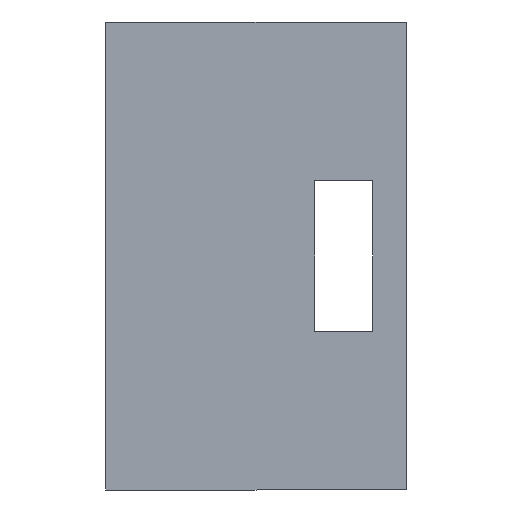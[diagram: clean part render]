
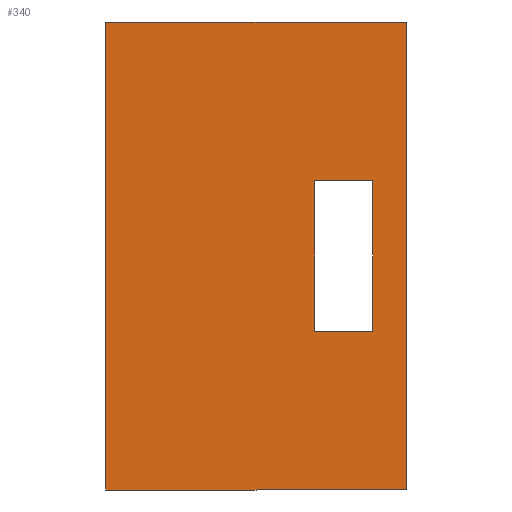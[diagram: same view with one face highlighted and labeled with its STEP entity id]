
A CAD part, front view. The second image highlights one B-rep face of the part: STEP entity #340.
In plain terms, the highlighted planar face has unit normal (0, -1, 0).
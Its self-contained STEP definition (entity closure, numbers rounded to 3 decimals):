
#22 = VERTEX_POINT('',#23);
#23 = CARTESIAN_POINT('',(18.,0.,28.));
#32 = PLANE('',#33);
#33 = AXIS2_PLACEMENT_3D('',#34,#35,#36);
#34 = CARTESIAN_POINT('',(0.,0.,28.));
#35 = DIRECTION('',(0.,0.,-1.));
#36 = DIRECTION('',(1.,0.,0.));
#44 = PLANE('',#45);
#45 = AXIS2_PLACEMENT_3D('',#46,#47,#48);
#46 = CARTESIAN_POINT('',(18.,0.,28.));
#47 = DIRECTION('',(1.,0.,0.));
#48 = DIRECTION('',(0.,0.,-1.));
#56 = EDGE_CURVE('',#57,#22,#59,.T.);
#57 = VERTEX_POINT('',#58);
#58 = CARTESIAN_POINT('',(0.,0.,28.));
#59 = SURFACE_CURVE('',#60,(#64,#71),.PCURVE_S1.);
#60 = LINE('',#61,#62);
#61 = CARTESIAN_POINT('',(0.,0.,28.));
#62 = VECTOR('',#63,1.);
#63 = DIRECTION('',(1.,0.,0.));
#64 = PCURVE('',#32,#65);
#65 = DEFINITIONAL_REPRESENTATION('',(#66),#70);
#66 = LINE('',#67,#68);
#67 = CARTESIAN_POINT('',(0.,0.));
#68 = VECTOR('',#69,1.);
#69 = DIRECTION('',(1.,0.));
#70 = ( GEOMETRIC_REPRESENTATION_CONTEXT(2) 
PARAMETRIC_REPRESENTATION_CONTEXT() REPRESENTATION_CONTEXT('2D SPACE',''
  ) );
#71 = PCURVE('',#72,#77);
#72 = PLANE('',#73);
#73 = AXIS2_PLACEMENT_3D('',#74,#75,#76);
#74 = CARTESIAN_POINT('',(0.,0.,28.));
#75 = DIRECTION('',(0.,1.,0.));
#76 = DIRECTION('',(1.,0.,0.));
#77 = DEFINITIONAL_REPRESENTATION('',(#78),#82);
#78 = LINE('',#79,#80);
#79 = CARTESIAN_POINT('',(0.,0.));
#80 = VECTOR('',#81,1.);
#81 = DIRECTION('',(1.,0.));
#82 = ( GEOMETRIC_REPRESENTATION_CONTEXT(2) 
PARAMETRIC_REPRESENTATION_CONTEXT() REPRESENTATION_CONTEXT('2D SPACE',''
  ) );
#100 = PLANE('',#101);
#101 = AXIS2_PLACEMENT_3D('',#102,#103,#104);
#102 = CARTESIAN_POINT('',(0.,0.,28.));
#103 = DIRECTION('',(1.,0.,0.));
#104 = DIRECTION('',(0.,0.,-1.));
#199 = EDGE_CURVE('',#22,#200,#202,.T.);
#200 = VERTEX_POINT('',#201);
#201 = CARTESIAN_POINT('',(18.,0.,0.));
#202 = SURFACE_CURVE('',#203,(#207,#214),.PCURVE_S1.);
#203 = LINE('',#204,#205);
#204 = CARTESIAN_POINT('',(18.,0.,28.));
#205 = VECTOR('',#206,1.);
#206 = DIRECTION('',(0.,0.,-1.));
#207 = PCURVE('',#44,#208);
#208 = DEFINITIONAL_REPRESENTATION('',(#209),#213);
#209 = LINE('',#210,#211);
#210 = CARTESIAN_POINT('',(0.,0.));
#211 = VECTOR('',#212,1.);
#212 = DIRECTION('',(1.,0.));
#213 = ( GEOMETRIC_REPRESENTATION_CONTEXT(2) 
PARAMETRIC_REPRESENTATION_CONTEXT() REPRESENTATION_CONTEXT('2D SPACE',''
  ) );
#214 = PCURVE('',#72,#215);
#215 = DEFINITIONAL_REPRESENTATION('',(#216),#220);
#216 = LINE('',#217,#218);
#217 = CARTESIAN_POINT('',(18.,0.));
#218 = VECTOR('',#219,1.);
#219 = DIRECTION('',(0.,1.));
#220 = ( GEOMETRIC_REPRESENTATION_CONTEXT(2) 
PARAMETRIC_REPRESENTATION_CONTEXT() REPRESENTATION_CONTEXT('2D SPACE',''
  ) );
#238 = PLANE('',#239);
#239 = AXIS2_PLACEMENT_3D('',#240,#241,#242);
#240 = CARTESIAN_POINT('',(0.,0.,0.));
#241 = DIRECTION('',(0.,0.,-1.));
#242 = DIRECTION('',(1.,0.,0.));
#340 = ADVANCED_FACE('',(#341,#389),#72,.F.);
#341 = FACE_BOUND('',#342,.F.);
#342 = EDGE_LOOP('',(#343,#366,#367,#368));
#343 = ORIENTED_EDGE('',*,*,#344,.F.);
#344 = EDGE_CURVE('',#57,#345,#347,.T.);
#345 = VERTEX_POINT('',#346);
#346 = CARTESIAN_POINT('',(0.,0.,0.));
#347 = SURFACE_CURVE('',#348,(#352,#359),.PCURVE_S1.);
#348 = LINE('',#349,#350);
#349 = CARTESIAN_POINT('',(0.,0.,28.));
#350 = VECTOR('',#351,1.);
#351 = DIRECTION('',(0.,0.,-1.));
#352 = PCURVE('',#72,#353);
#353 = DEFINITIONAL_REPRESENTATION('',(#354),#358);
#354 = LINE('',#355,#356);
#355 = CARTESIAN_POINT('',(0.,0.));
#356 = VECTOR('',#357,1.);
#357 = DIRECTION('',(0.,1.));
#358 = ( GEOMETRIC_REPRESENTATION_CONTEXT(2) 
PARAMETRIC_REPRESENTATION_CONTEXT() REPRESENTATION_CONTEXT('2D SPACE',''
  ) );
#359 = PCURVE('',#100,#360);
#360 = DEFINITIONAL_REPRESENTATION('',(#361),#365);
#361 = LINE('',#362,#363);
#362 = CARTESIAN_POINT('',(0.,0.));
#363 = VECTOR('',#364,1.);
#364 = DIRECTION('',(1.,0.));
#365 = ( GEOMETRIC_REPRESENTATION_CONTEXT(2) 
PARAMETRIC_REPRESENTATION_CONTEXT() REPRESENTATION_CONTEXT('2D SPACE',''
  ) );
#366 = ORIENTED_EDGE('',*,*,#56,.T.);
#367 = ORIENTED_EDGE('',*,*,#199,.T.);
#368 = ORIENTED_EDGE('',*,*,#369,.F.);
#369 = EDGE_CURVE('',#345,#200,#370,.T.);
#370 = SURFACE_CURVE('',#371,(#375,#382),.PCURVE_S1.);
#371 = LINE('',#372,#373);
#372 = CARTESIAN_POINT('',(0.,0.,0.));
#373 = VECTOR('',#374,1.);
#374 = DIRECTION('',(1.,0.,0.));
#375 = PCURVE('',#72,#376);
#376 = DEFINITIONAL_REPRESENTATION('',(#377),#381);
#377 = LINE('',#378,#379);
#378 = CARTESIAN_POINT('',(0.,28.));
#379 = VECTOR('',#380,1.);
#380 = DIRECTION('',(1.,0.));
#381 = ( GEOMETRIC_REPRESENTATION_CONTEXT(2) 
PARAMETRIC_REPRESENTATION_CONTEXT() REPRESENTATION_CONTEXT('2D SPACE',''
  ) );
#382 = PCURVE('',#238,#383);
#383 = DEFINITIONAL_REPRESENTATION('',(#384),#388);
#384 = LINE('',#385,#386);
#385 = CARTESIAN_POINT('',(0.,0.));
#386 = VECTOR('',#387,1.);
#387 = DIRECTION('',(1.,0.));
#388 = ( GEOMETRIC_REPRESENTATION_CONTEXT(2) 
PARAMETRIC_REPRESENTATION_CONTEXT() REPRESENTATION_CONTEXT('2D SPACE',''
  ) );
#389 = FACE_BOUND('',#390,.F.);
#390 = EDGE_LOOP('',(#391,#421,#449,#477));
#391 = ORIENTED_EDGE('',*,*,#392,.F.);
#392 = EDGE_CURVE('',#393,#395,#397,.T.);
#393 = VERTEX_POINT('',#394);
#394 = CARTESIAN_POINT('',(16.,0.,18.5));
#395 = VERTEX_POINT('',#396);
#396 = CARTESIAN_POINT('',(16.,0.,9.5));
#397 = SURFACE_CURVE('',#398,(#402,#409),.PCURVE_S1.);
#398 = LINE('',#399,#400);
#399 = CARTESIAN_POINT('',(16.,0.,23.25));
#400 = VECTOR('',#401,1.);
#401 = DIRECTION('',(0.,0.,-1.));
#402 = PCURVE('',#72,#403);
#403 = DEFINITIONAL_REPRESENTATION('',(#404),#408);
#404 = LINE('',#405,#406);
#405 = CARTESIAN_POINT('',(16.,4.75));
#406 = VECTOR('',#407,1.);
#407 = DIRECTION('',(0.,1.));
#408 = ( GEOMETRIC_REPRESENTATION_CONTEXT(2) 
PARAMETRIC_REPRESENTATION_CONTEXT() REPRESENTATION_CONTEXT('2D SPACE',''
  ) );
#409 = PCURVE('',#410,#415);
#410 = PLANE('',#411);
#411 = AXIS2_PLACEMENT_3D('',#412,#413,#414);
#412 = CARTESIAN_POINT('',(16.,-1.,18.5));
#413 = DIRECTION('',(1.,0.,0.));
#414 = DIRECTION('',(0.,0.,-1.));
#415 = DEFINITIONAL_REPRESENTATION('',(#416),#420);
#416 = LINE('',#417,#418);
#417 = CARTESIAN_POINT('',(-4.75,1.));
#418 = VECTOR('',#419,1.);
#419 = DIRECTION('',(1.,0.));
#420 = ( GEOMETRIC_REPRESENTATION_CONTEXT(2) 
PARAMETRIC_REPRESENTATION_CONTEXT() REPRESENTATION_CONTEXT('2D SPACE',''
  ) );
#421 = ORIENTED_EDGE('',*,*,#422,.T.);
#422 = EDGE_CURVE('',#393,#423,#425,.T.);
#423 = VERTEX_POINT('',#424);
#424 = CARTESIAN_POINT('',(12.5,0.,18.5));
#425 = SURFACE_CURVE('',#426,(#430,#437),.PCURVE_S1.);
#426 = LINE('',#427,#428);
#427 = CARTESIAN_POINT('',(6.25,0.,18.5));
#428 = VECTOR('',#429,1.);
#429 = DIRECTION('',(-1.,0.,0.));
#430 = PCURVE('',#72,#431);
#431 = DEFINITIONAL_REPRESENTATION('',(#432),#436);
#432 = LINE('',#433,#434);
#433 = CARTESIAN_POINT('',(6.25,9.5));
#434 = VECTOR('',#435,1.);
#435 = DIRECTION('',(-1.,0.));
#436 = ( GEOMETRIC_REPRESENTATION_CONTEXT(2) 
PARAMETRIC_REPRESENTATION_CONTEXT() REPRESENTATION_CONTEXT('2D SPACE',''
  ) );
#437 = PCURVE('',#438,#443);
#438 = PLANE('',#439);
#439 = AXIS2_PLACEMENT_3D('',#440,#441,#442);
#440 = CARTESIAN_POINT('',(12.5,-1.,18.5));
#441 = DIRECTION('',(0.,0.,-1.));
#442 = DIRECTION('',(1.,0.,0.));
#443 = DEFINITIONAL_REPRESENTATION('',(#444),#448);
#444 = LINE('',#445,#446);
#445 = CARTESIAN_POINT('',(-6.25,-1.));
#446 = VECTOR('',#447,1.);
#447 = DIRECTION('',(-1.,-0.));
#448 = ( GEOMETRIC_REPRESENTATION_CONTEXT(2) 
PARAMETRIC_REPRESENTATION_CONTEXT() REPRESENTATION_CONTEXT('2D SPACE',''
  ) );
#449 = ORIENTED_EDGE('',*,*,#450,.T.);
#450 = EDGE_CURVE('',#423,#451,#453,.T.);
#451 = VERTEX_POINT('',#452);
#452 = CARTESIAN_POINT('',(12.5,0.,9.5));
#453 = SURFACE_CURVE('',#454,(#458,#465),.PCURVE_S1.);
#454 = LINE('',#455,#456);
#455 = CARTESIAN_POINT('',(12.5,0.,23.25));
#456 = VECTOR('',#457,1.);
#457 = DIRECTION('',(0.,0.,-1.));
#458 = PCURVE('',#72,#459);
#459 = DEFINITIONAL_REPRESENTATION('',(#460),#464);
#460 = LINE('',#461,#462);
#461 = CARTESIAN_POINT('',(12.5,4.75));
#462 = VECTOR('',#463,1.);
#463 = DIRECTION('',(0.,1.));
#464 = ( GEOMETRIC_REPRESENTATION_CONTEXT(2) 
PARAMETRIC_REPRESENTATION_CONTEXT() REPRESENTATION_CONTEXT('2D SPACE',''
  ) );
#465 = PCURVE('',#466,#471);
#466 = PLANE('',#467);
#467 = AXIS2_PLACEMENT_3D('',#468,#469,#470);
#468 = CARTESIAN_POINT('',(12.5,-1.,18.5));
#469 = DIRECTION('',(1.,0.,0.));
#470 = DIRECTION('',(0.,0.,-1.));
#471 = DEFINITIONAL_REPRESENTATION('',(#472),#476);
#472 = LINE('',#473,#474);
#473 = CARTESIAN_POINT('',(-4.75,1.));
#474 = VECTOR('',#475,1.);
#475 = DIRECTION('',(1.,0.));
#476 = ( GEOMETRIC_REPRESENTATION_CONTEXT(2) 
PARAMETRIC_REPRESENTATION_CONTEXT() REPRESENTATION_CONTEXT('2D SPACE',''
  ) );
#477 = ORIENTED_EDGE('',*,*,#478,.F.);
#478 = EDGE_CURVE('',#395,#451,#479,.T.);
#479 = SURFACE_CURVE('',#480,(#484,#491),.PCURVE_S1.);
#480 = LINE('',#481,#482);
#481 = CARTESIAN_POINT('',(6.25,0.,9.5));
#482 = VECTOR('',#483,1.);
#483 = DIRECTION('',(-1.,0.,0.));
#484 = PCURVE('',#72,#485);
#485 = DEFINITIONAL_REPRESENTATION('',(#486),#490);
#486 = LINE('',#487,#488);
#487 = CARTESIAN_POINT('',(6.25,18.5));
#488 = VECTOR('',#489,1.);
#489 = DIRECTION('',(-1.,0.));
#490 = ( GEOMETRIC_REPRESENTATION_CONTEXT(2) 
PARAMETRIC_REPRESENTATION_CONTEXT() REPRESENTATION_CONTEXT('2D SPACE',''
  ) );
#491 = PCURVE('',#492,#497);
#492 = PLANE('',#493);
#493 = AXIS2_PLACEMENT_3D('',#494,#495,#496);
#494 = CARTESIAN_POINT('',(12.5,-1.,9.5));
#495 = DIRECTION('',(0.,0.,-1.));
#496 = DIRECTION('',(1.,0.,0.));
#497 = DEFINITIONAL_REPRESENTATION('',(#498),#502);
#498 = LINE('',#499,#500);
#499 = CARTESIAN_POINT('',(-6.25,-1.));
#500 = VECTOR('',#501,1.);
#501 = DIRECTION('',(-1.,-0.));
#502 = ( GEOMETRIC_REPRESENTATION_CONTEXT(2) 
PARAMETRIC_REPRESENTATION_CONTEXT() REPRESENTATION_CONTEXT('2D SPACE',''
  ) );
